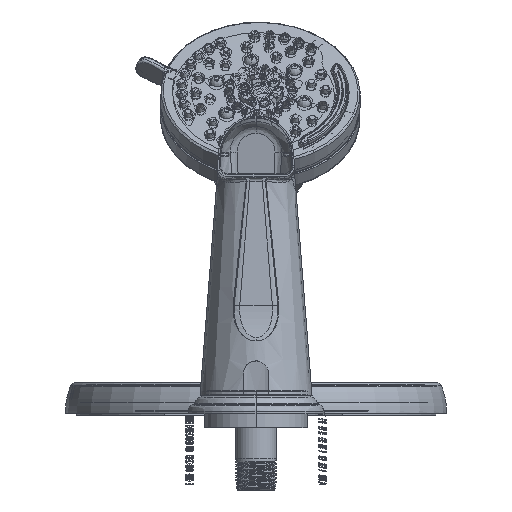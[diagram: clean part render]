
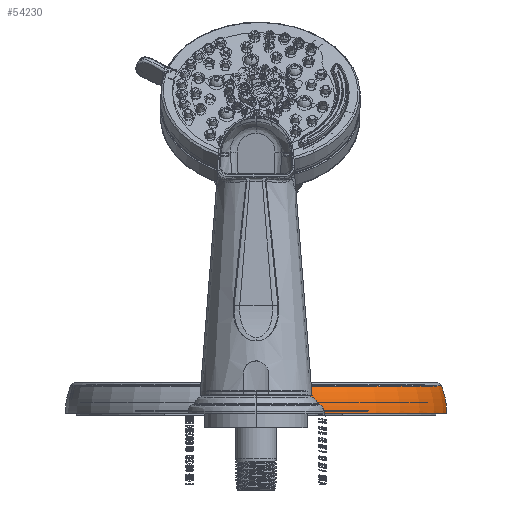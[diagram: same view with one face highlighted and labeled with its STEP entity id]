
A CAD part, front view. The second image highlights one B-rep face of the part: STEP entity #54230.
In plain terms, the highlighted toroidal (fillet/blend) face has major radius 57.353 mm and minor radius 38.1 mm.
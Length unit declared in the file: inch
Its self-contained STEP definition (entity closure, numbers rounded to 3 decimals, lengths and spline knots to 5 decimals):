
#750 = DIRECTION ( 'NONE',  ( 0., 0., -1. ) ) ;
#1976 = EDGE_CURVE ( 'NONE', #40838, #89604, #102725, .T. ) ;
#3217 = CARTESIAN_POINT ( 'NONE',  ( 0.22476, 13.75074, 0.04 ) ) ;
#3540 = ORIENTED_EDGE ( 'NONE', *, *, #55612, .F. ) ;
#4026 = CARTESIAN_POINT ( 'NONE',  ( 0., 10., 0. ) ) ;
#4724 = DIRECTION ( 'NONE',  ( 0., 0., 1. ) ) ;
#5559 = VERTEX_POINT ( 'NONE', #70913 ) ;
#5596 = CARTESIAN_POINT ( 'NONE',  ( 0.21515, 13.75072, 0.05789 ) ) ;
#5735 = EDGE_LOOP ( 'NONE', ( #78533, #119960, #61976, #69408, #35822, #15666, #75704, #86531, #70084, #3540, #72740, #45498 ) ) ;
#6098 = CARTESIAN_POINT ( 'NONE',  ( 0.03596, 12.25771, 0. ) ) ;
#7740 = CARTESIAN_POINT ( 'NONE',  ( 0.18479, 13.75296, 0.03844 ) ) ;
#9063 = EDGE_CURVE ( 'NONE', #21391, #26957, #33436, .T. ) ;
#11416 = DIRECTION ( 'NONE',  ( 0.016, 1., 0. ) ) ;
#12707 = CARTESIAN_POINT ( 'NONE',  ( 0.22477, 13.75127, 0. ) ) ;
#14400 = CARTESIAN_POINT ( 'NONE',  ( -0.05985, 6.24248, 0. ) ) ;
#15666 = ORIENTED_EDGE ( 'NONE', *, *, #80319, .T. ) ;
#18072 = AXIS2_PLACEMENT_3D ( 'NONE', #6098, #107035, #21946 ) ;
#19308 = CIRCLE ( 'NONE', #48449, 3.65177 ) ;
#21391 = VERTEX_POINT ( 'NONE', #62917 ) ;
#21946 = DIRECTION ( 'NONE',  ( -0.016, -1., 0. ) ) ;
#25706 = AXIS2_PLACEMENT_3D ( 'NONE', #106218, #68494, #11416 ) ;
#26957 = VERTEX_POINT ( 'NONE', #78500 ) ;
#27542 = CARTESIAN_POINT ( 'NONE',  ( 0.18479, 13.75292, 0.04 ) ) ;
#27728 = CARTESIAN_POINT ( 'NONE',  ( 0.18479, 13.75304, 0.03531 ) ) ;
#28838 = VERTEX_POINT ( 'NONE', #106612 ) ;
#30895 = CARTESIAN_POINT ( 'NONE',  ( 0.22477, 13.75127, 0.00666 ) ) ;
#33436 = B_SPLINE_CURVE_WITH_KNOTS ( 'NONE', 3,
 ( #116030, #96555, #41831, #77695, #30895, #12707 ),
 .UNSPECIFIED., .F., .F.,
 ( 4, 2, 4 ),
 ( 0.23843, 0.23893, 0.23943 ),
 .UNSPECIFIED. ) ;
#33628 = CARTESIAN_POINT ( 'NONE',  ( 0.12032, 6.25196, 0.155 ) ) ;
#34453 = DIRECTION ( 'NONE',  ( 0.016, 1., 0. ) ) ;
#34760 = CARTESIAN_POINT ( 'NONE',  ( 0.12024, 6.24634, 0.085 ) ) ;
#35809 = FACE_OUTER_BOUND ( 'NONE', #5735, .T. ) ;
#35822 = ORIENTED_EDGE ( 'NONE', *, *, #76283, .T. ) ;
#38898 = AXIS2_PLACEMENT_3D ( 'NONE', #45529, #83183, #61961 ) ;
#39168 = CARTESIAN_POINT ( 'NONE',  ( 0., 10., 0.55443 ) ) ;
#40838 = VERTEX_POINT ( 'NONE', #41874 ) ;
#41101 = DIRECTION ( 'NONE',  ( 0., 0., -1. ) ) ;
#41831 = CARTESIAN_POINT ( 'NONE',  ( 0.22477, 13.75105, 0.02665 ) ) ;
#41874 = CARTESIAN_POINT ( 'NONE',  ( -0.05972, 6.25051, 0.155 ) ) ;
#44797 = CARTESIAN_POINT ( 'NONE',  ( 0.18479, 13.75292, 0.04 ) ) ;
#45498 = ORIENTED_EDGE ( 'NONE', *, *, #92307, .F. ) ;
#45529 = CARTESIAN_POINT ( 'NONE',  ( 0., 10., 0. ) ) ;
#46755 = CARTESIAN_POINT ( 'NONE',  ( -0.05816, 6.34869, 0.55443 ) ) ;
#48449 = AXIS2_PLACEMENT_3D ( 'NONE', #39168, #103021, #83555 ) ;
#50082 = EDGE_CURVE ( 'NONE', #80948, #75729, #19308, .T. ) ;
#50725 = VERTEX_POINT ( 'NONE', #14400 ) ;
#50893 = CARTESIAN_POINT ( 'NONE',  ( 0., 10., 0.155 ) ) ;
#51186 = CARTESIAN_POINT ( 'NONE',  ( 0.22476, 13.7506, 0.04529 ) ) ;
#51291 = EDGE_CURVE ( 'NONE', #59670, #21391, #56325, .T. ) ;
#53919 = CARTESIAN_POINT ( 'NONE',  ( 0.18479, 13.75311, 0.03218 ) ) ;
#54230 = ADVANCED_FACE ( 'NONE', ( #35809 ), #75762, .T. ) ;
#55612 = EDGE_CURVE ( 'NONE', #5559, #59670, #60189, .T. ) ;
#56053 = CARTESIAN_POINT ( 'NONE',  ( 0., 10., 0.085 ) ) ;
#56325 = B_SPLINE_CURVE_WITH_KNOTS ( 'NONE', 3,
 ( #27542, #64615, #65219, #88862, #68208, #88270, #5596, #96205, #51186, #3217 ),
 .UNSPECIFIED., .F., .F.,
 ( 4, 2, 2, 2, 4 ),
 ( 0., 0.0004, 0.00079, 0.00119, 0.00159 ),
 .UNSPECIFIED. ) ;
#56623 = DIRECTION ( 'NONE',  ( 0.016, 1., 0. ) ) ;
#59291 = EDGE_CURVE ( 'NONE', #89604, #81960, #108626, .T. ) ;
#59670 = VERTEX_POINT ( 'NONE', #111628 ) ;
#60010 = AXIS2_PLACEMENT_3D ( 'NONE', #50893, #4724, #34453 ) ;
#60189 = B_SPLINE_CURVE_WITH_KNOTS ( 'NONE', 3,
 ( #83064, #53919, #27728, #7740, #44797 ),
 .UNSPECIFIED., .F., .F.,
 ( 4, 1, 4 ),
 ( 0.00004, 0.00016, 0.00027 ),
 .UNSPECIFIED. ) ;
#61529 = CIRCLE ( 'NONE', #63516, 3.75559 ) ;
#61961 = DIRECTION ( 'NONE',  ( 0.016, 1., 0. ) ) ;
#61976 = ORIENTED_EDGE ( 'NONE', *, *, #1976, .T. ) ;
#62917 = CARTESIAN_POINT ( 'NONE',  ( 0.22476, 13.75074, 0.04 ) ) ;
#63516 = AXIS2_PLACEMENT_3D ( 'NONE', #56053, #750, #65767 ) ;
#64615 = CARTESIAN_POINT ( 'NONE',  ( 0.18479, 13.75278, 0.04529 ) ) ;
#65219 = CARTESIAN_POINT ( 'NONE',  ( 0.18695, 13.7525, 0.05045 ) ) ;
#65767 = DIRECTION ( 'NONE',  ( -0.016, -1., 0. ) ) ;
#66337 = CARTESIAN_POINT ( 'NONE',  ( 0., 10., 0.03061 ) ) ;
#68208 = CARTESIAN_POINT ( 'NONE',  ( 0.19953, 13.7515, 0.05999 ) ) ;
#68369 = CARTESIAN_POINT ( 'NONE',  ( -0.03596, 7.74229, 0. ) ) ;
#68494 = DIRECTION ( 'NONE',  ( 1., -0.016, 0. ) ) ;
#69142 = EDGE_CURVE ( 'NONE', #26957, #50725, #90352, .T. ) ;
#69408 = ORIENTED_EDGE ( 'NONE', *, *, #59291, .T. ) ;
#70084 = ORIENTED_EDGE ( 'NONE', *, *, #51291, .F. ) ;
#70913 = CARTESIAN_POINT ( 'NONE',  ( 0.1848, 13.75314, 0.03061 ) ) ;
#72465 = CIRCLE ( 'NONE', #80273, 3.75769 ) ;
#72740 = ORIENTED_EDGE ( 'NONE', *, *, #117120, .T. ) ;
#75704 = ORIENTED_EDGE ( 'NONE', *, *, #69142, .F. ) ;
#75729 = VERTEX_POINT ( 'NONE', #46755 ) ;
#75762 = TOROIDAL_SURFACE ( 'NONE', #38898, 2.258, 1.5 ) ;
#76283 = EDGE_CURVE ( 'NONE', #81960, #28838, #61529, .T. ) ;
#77695 = CARTESIAN_POINT ( 'NONE',  ( 0.22477, 13.75123, 0.01332 ) ) ;
#78174 = DIRECTION ( 'NONE',  ( 0.016, 1., 0. ) ) ;
#78500 = CARTESIAN_POINT ( 'NONE',  ( 0.22477, 13.75127, 0. ) ) ;
#78533 = ORIENTED_EDGE ( 'NONE', *, *, #50082, .T. ) ;
#80273 = AXIS2_PLACEMENT_3D ( 'NONE', #66337, #94317, #56623 ) ;
#80319 = EDGE_CURVE ( 'NONE', #28838, #50725, #92846, .T. ) ;
#80948 = VERTEX_POINT ( 'NONE', #90992 ) ;
#80962 = CARTESIAN_POINT ( 'NONE',  ( 0.12027, 6.24861, 0.12011 ) ) ;
#81960 = VERTEX_POINT ( 'NONE', #106557 ) ;
#82094 = CIRCLE ( 'NONE', #18072, 1.5 ) ;
#83064 = CARTESIAN_POINT ( 'NONE',  ( 0.1848, 13.75314, 0.03061 ) ) ;
#83183 = DIRECTION ( 'NONE',  ( 0., 0., -1. ) ) ;
#83187 = CARTESIAN_POINT ( 'NONE',  ( 0.12025, 6.247, 0.09672 ) ) ;
#83555 = DIRECTION ( 'NONE',  ( 0.016, 1., 0. ) ) ;
#85566 = VERTEX_POINT ( 'NONE', #93756 ) ;
#86026 = DIRECTION ( 'NONE',  ( 1., -0.016, 0. ) ) ;
#86531 = ORIENTED_EDGE ( 'NONE', *, *, #9063, .F. ) ;
#88270 = CARTESIAN_POINT ( 'NONE',  ( 0.20995, 13.75093, 0.06001 ) ) ;
#88862 = CARTESIAN_POINT ( 'NONE',  ( 0.19432, 13.75186, 0.05783 ) ) ;
#89604 = VERTEX_POINT ( 'NONE', #33628 ) ;
#90352 = CIRCLE ( 'NONE', #92265, 3.758 ) ;
#90691 = CARTESIAN_POINT ( 'NONE',  ( 0.12032, 6.25196, 0.155 ) ) ;
#90843 = EDGE_CURVE ( 'NONE', #75729, #40838, #99465, .T. ) ;
#90992 = CARTESIAN_POINT ( 'NONE',  ( 0.05816, 13.65131, 0.55443 ) ) ;
#92265 = AXIS2_PLACEMENT_3D ( 'NONE', #4026, #41101, #78174 ) ;
#92307 = EDGE_CURVE ( 'NONE', #80948, #85566, #82094, .T. ) ;
#92846 = CIRCLE ( 'NONE', #98686, 1.5 ) ;
#93756 = CARTESIAN_POINT ( 'NONE',  ( 0.05984, 13.75721, 0.03061 ) ) ;
#94317 = DIRECTION ( 'NONE',  ( 0., 0., 1. ) ) ;
#96205 = CARTESIAN_POINT ( 'NONE',  ( 0.22262, 13.75056, 0.05043 ) ) ;
#96555 = CARTESIAN_POINT ( 'NONE',  ( 0.22476, 13.75092, 0.03333 ) ) ;
#98686 = AXIS2_PLACEMENT_3D ( 'NONE', #68369, #86026, #115834 ) ;
#99465 = CIRCLE ( 'NONE', #25706, 1.5 ) ;
#102725 = CIRCLE ( 'NONE', #60010, 3.74997 ) ;
#103021 = DIRECTION ( 'NONE',  ( 0., 0., -1. ) ) ;
#106218 = CARTESIAN_POINT ( 'NONE',  ( -0.03596, 7.74229, 0. ) ) ;
#106557 = CARTESIAN_POINT ( 'NONE',  ( 0.12024, 6.24634, 0.085 ) ) ;
#106612 = CARTESIAN_POINT ( 'NONE',  ( -0.05981, 6.24489, 0.085 ) ) ;
#107035 = DIRECTION ( 'NONE',  ( -1., 0.016, 0. ) ) ;
#108626 = B_SPLINE_CURVE_WITH_KNOTS ( 'NONE', 3,
 ( #90691, #108942, #80962, #83187, #34760 ),
 .UNSPECIFIED., .F., .F.,
 ( 4, 1, 4 ),
 ( 0.11257, 0.11346, 0.11434 ),
 .UNSPECIFIED. ) ;
#108942 = CARTESIAN_POINT ( 'NONE',  ( 0.12031, 6.25075, 0.14339 ) ) ;
#111628 = CARTESIAN_POINT ( 'NONE',  ( 0.18479, 13.75292, 0.04 ) ) ;
#115834 = DIRECTION ( 'NONE',  ( 0.016, 1., 0. ) ) ;
#116030 = CARTESIAN_POINT ( 'NONE',  ( 0.22476, 13.75074, 0.04 ) ) ;
#117120 = EDGE_CURVE ( 'NONE', #5559, #85566, #72465, .T. ) ;
#119960 = ORIENTED_EDGE ( 'NONE', *, *, #90843, .T. ) ;
